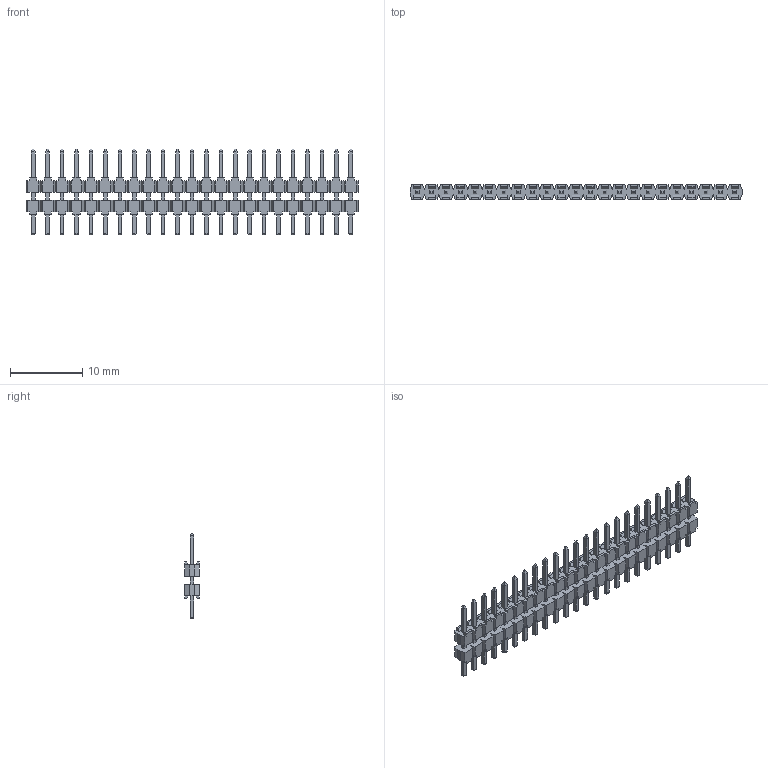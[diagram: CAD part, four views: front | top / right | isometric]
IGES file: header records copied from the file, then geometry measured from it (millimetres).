
Global section: file name: N:\GOLF_VI_2mm_UGII\9514XX_901XX06_AR\951423-9011106-AR.igs; native system: NX V3.0; preprocessor: UGS NX IGES V4.0; date: 20070314.114108; units: millimetre
Bounding box: 46 x 2 x 11.9 mm (x, y, z)
Surface area: 1240.9 mm2 (no closed solid volume)
Topology: 0 solids, 0 shells, 1158 faces, 6281 edges, 6281 vertices
Faces by surface type: bspline 1158
